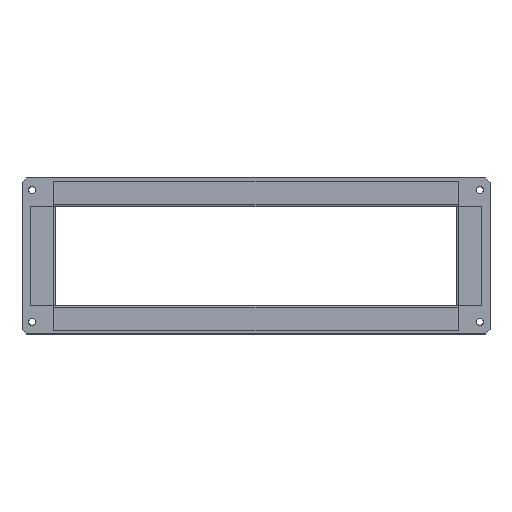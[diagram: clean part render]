
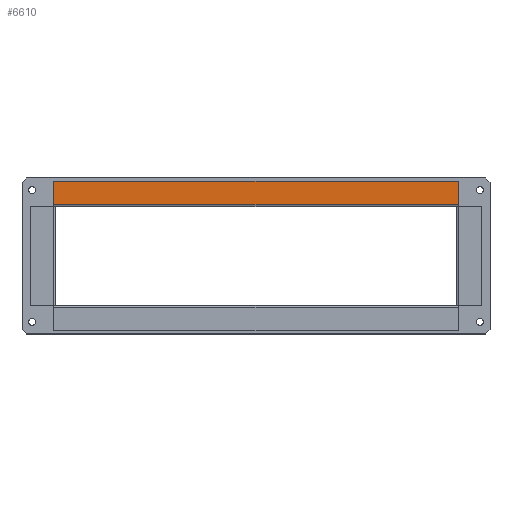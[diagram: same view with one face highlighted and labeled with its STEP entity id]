
A CAD part, top view. The second image highlights one B-rep face of the part: STEP entity #6610.
In plain terms, the highlighted planar face has unit normal (0, 0, 1) as drawn and (0, 0, -1) by its records, which use the part's own axes.
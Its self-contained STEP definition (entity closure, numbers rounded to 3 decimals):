
#53 = VECTOR ( 'NONE', #2799, 1000. ) ;
#83 = VERTEX_POINT ( 'NONE', #5786 ) ;
#239 = CARTESIAN_POINT ( 'NONE',  ( -200.8, 0., 0. ) ) ;
#294 = CARTESIAN_POINT ( 'NONE',  ( 200.8, 0., 0. ) ) ;
#397 = ORIENTED_EDGE ( 'NONE', *, *, #2517, .T. ) ;
#1091 = FACE_OUTER_BOUND ( 'NONE', #1435, .T. ) ;
#1268 = CARTESIAN_POINT ( 'NONE',  ( 200.8, 25., 0. ) ) ;
#1409 = LINE ( 'NONE', #1268, #53 ) ;
#1435 = EDGE_LOOP ( 'NONE', ( #1826, #6085, #397, #4483 ) ) ;
#1826 = ORIENTED_EDGE ( 'NONE', *, *, #4080, .F. ) ;
#1921 = CARTESIAN_POINT ( 'NONE',  ( 200.8, 25., 0. ) ) ;
#2064 = LINE ( 'NONE', #5574, #3258 ) ;
#2138 = DIRECTION ( 'NONE',  ( -1., 0., 0. ) ) ;
#2353 = DIRECTION ( 'NONE',  ( -1., 0., 0. ) ) ;
#2517 = EDGE_CURVE ( 'NONE', #2776, #2866, #2064, .T. ) ;
#2528 = VECTOR ( 'NONE', #2138, 1000. ) ;
#2776 = VERTEX_POINT ( 'NONE', #1921 ) ;
#2799 = DIRECTION ( 'NONE',  ( -1., 0., 0. ) ) ;
#2866 = VERTEX_POINT ( 'NONE', #3385 ) ;
#3258 = VECTOR ( 'NONE', #6049, 1000. ) ;
#3328 = AXIS2_PLACEMENT_3D ( 'NONE', #294, #5411, #2353 ) ;
#3385 = CARTESIAN_POINT ( 'NONE',  ( 200.8, 1.8, 0. ) ) ;
#3663 = CARTESIAN_POINT ( 'NONE',  ( 200.8, 1.8, 0. ) ) ;
#3829 = DIRECTION ( 'NONE',  ( 0., -1., 0. ) ) ;
#3897 = PLANE ( 'NONE',  #3328 ) ;
#4080 = EDGE_CURVE ( 'NONE', #6128, #83, #6249, .T. ) ;
#4483 = ORIENTED_EDGE ( 'NONE', *, *, #5308, .T. ) ;
#4879 = VECTOR ( 'NONE', #3829, 1000. ) ;
#5308 = EDGE_CURVE ( 'NONE', #2866, #83, #6458, .T. ) ;
#5411 = DIRECTION ( 'NONE',  ( 0., 0., -1. ) ) ;
#5574 = CARTESIAN_POINT ( 'NONE',  ( 200.8, 0., 0. ) ) ;
#5786 = CARTESIAN_POINT ( 'NONE',  ( -200.8, 1.8, 0. ) ) ;
#6049 = DIRECTION ( 'NONE',  ( 0., -1., 0. ) ) ;
#6085 = ORIENTED_EDGE ( 'NONE', *, *, #6549, .F. ) ;
#6128 = VERTEX_POINT ( 'NONE', #6587 ) ;
#6249 = LINE ( 'NONE', #239, #4879 ) ;
#6458 = LINE ( 'NONE', #3663, #2528 ) ;
#6549 = EDGE_CURVE ( 'NONE', #2776, #6128, #1409, .T. ) ;
#6587 = CARTESIAN_POINT ( 'NONE',  ( -200.8, 25., 0. ) ) ;
#6610 = ADVANCED_FACE ( 'NONE', ( #1091 ), #3897, .T. ) ;
